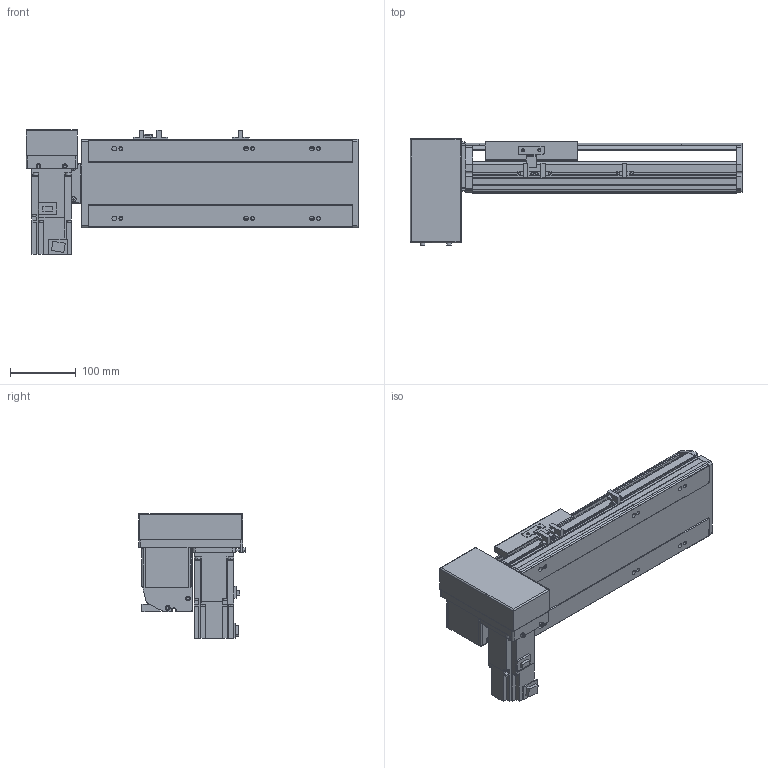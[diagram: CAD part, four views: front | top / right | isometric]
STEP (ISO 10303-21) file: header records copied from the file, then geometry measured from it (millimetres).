
FILE_DESCRIPTION( ( 'STEP AP214' ), '1' );
FILE_NAME( 'x:/temp/worker_4/temp/exporttempdir_2248_37_QnKrp/format_0/PBS140-P40-S150-RD-T40-C1-N(0).stp', '2022-06-07T05:33:58', ( 'License CC BY-ND 4.0' ), ( 'CADENAS' ), ' ', 'PARTsolutions', ' ' );
FILE_SCHEMA( ( 'AUTOMOTIVE_DESIGN { 1 0 10303 214 1 1 1 1 }' ) );
Length unit declared in the file: millimetre
Products named in the file (7): PBS140-P40-S150-RD-T40-C1-N(0); _PBS140-S150()_body; _PBS140T-RD_motors; _T40-p1; _PBS140_sliser; _PBS140_plant; _PBS140_sensor
Assembly tree (8 placements, depth 2):
  PBS140-P40-S150-RD-T40-C1-N(0)
    _PBS140-S150()_body
    _PBS140T-RD_motors
    _T40-p1
    _PBS140_sliser
    _PBS140_plant
    _PBS140_sensor  x3
Bounding box: 504 x 162 x 189.7 mm (x, y, z)
Volume: 2949434.7 mm3; surface area: 550381.8 mm2
Topology: 8 solids, 8 shells, 995 faces, 2636 edges, 1723 vertices
Faces by surface type: plane 662, cylinder 291, cone 32, sphere 8, torus 2
Full cylindrical faces by diameter (mm): 3.242 x4, 4 x2, 4.134 x4, 4.4 x8, 4.5 x2, 4.8 x4, 4.917 x14, 5.5 x7, 6 x2, 7 x8, 7.5 x8, 8 x12, 8.5 x4, 10.5 x6, 14 x1, 30 x2, 50 x2
Entity records: 36079 total; most frequent: CARTESIAN_POINT 5411, DIRECTION 4847, ORIENTED_EDGE 4612, EDGE_CURVE 2306, AXIS2_PLACEMENT_3D 1657, VERTEX_POINT 1581, LINE 1533, VECTOR 1533
